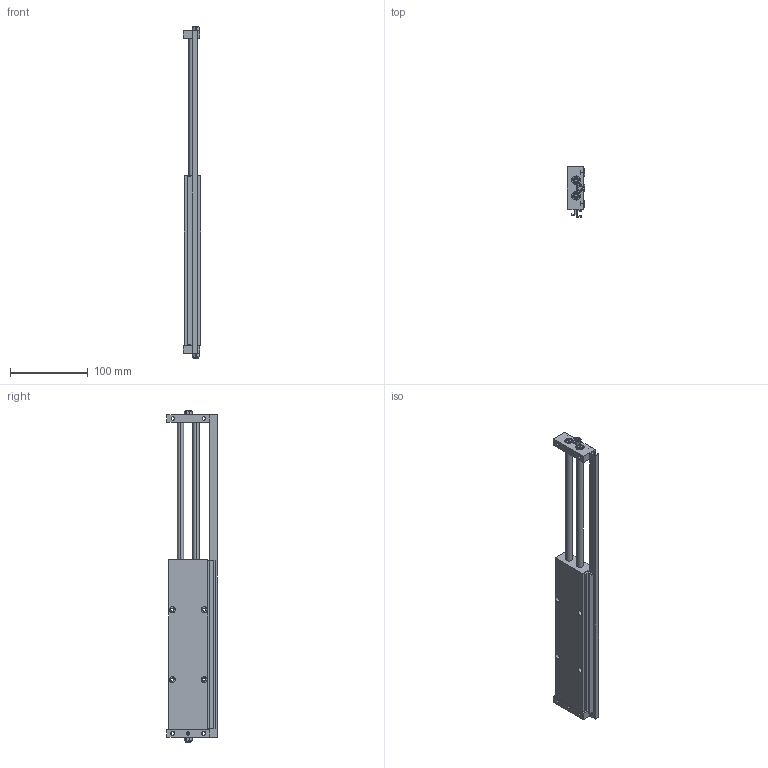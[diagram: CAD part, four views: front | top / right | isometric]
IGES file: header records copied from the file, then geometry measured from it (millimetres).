
Global section: file name: No Iges File Name specified; native system: Autodesk Inventor 2011; preprocessor: AutoDesk Inventor Iges Exporter R2011; author: nozzaem1; date: 20110516.134043; units: millimetre
Bounding box: 22 x 64.6 x 428 mm (x, y, z)
Volume: 283216.3 mm3; surface area: 103107.8 mm2
Topology: 8 solids, 8 shells, 295 faces, 686 edges, 447 vertices
Faces by surface type: plane 122, bspline 95, cylinder 38, revolution 20, cone 20
